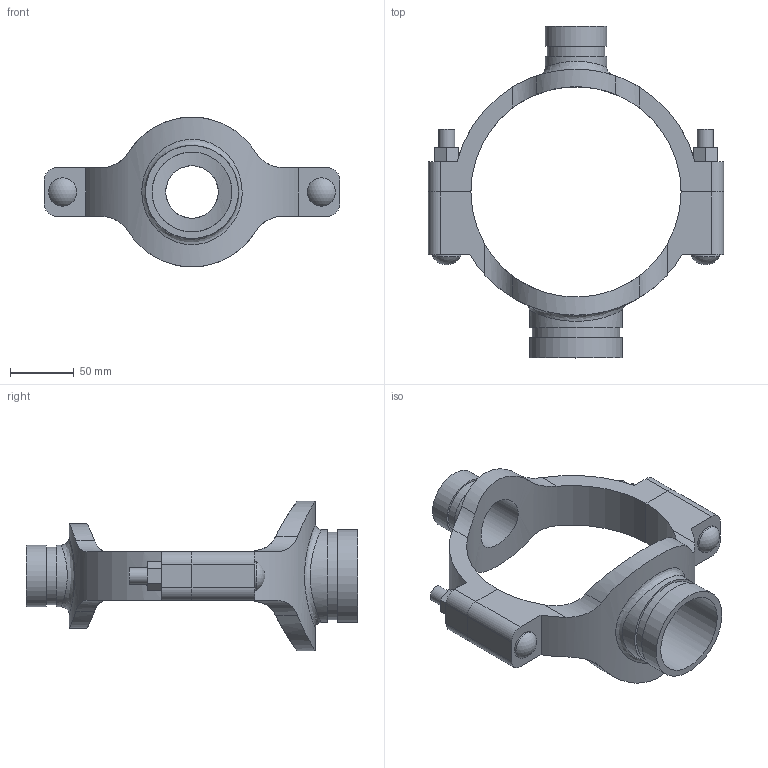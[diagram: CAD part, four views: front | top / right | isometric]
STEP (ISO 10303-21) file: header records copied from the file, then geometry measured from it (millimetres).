
FILE_DESCRIPTION(/* description */ ('VIC MECH-T BRANCH OUTLET CROSS STYLE 920N (GRVD)','CAx-IF Rec.Pracs.---Representation and Presentation of Product Manufacturing Information (PMI)---4.0---2014-10-13'),/* implementation_level */ '2;1');
FILE_NAME(/* name */ 'C:\Users\Vjadhav\AppData\Roaming\Autodesk\ApplicationPlugins\Back Up\Victaulic_IPS_Mechanical-Cross Outlet_Style 920N (OGS)\Victaulic_IPS_Mechanical-Cross Outlet_06.0 (165.1)x01.5x02.5 (150x40x65).stp',/* time_stamp */ '2020-08-06T19:45:10+05:00',/* author */ ('Vjadhav'),/* organization */ ('Victaulic'),/* preprocessor_version */ 'ST-DEVELOPER v17.2',/* originating_system */ 'Autodesk Inventor 2019',/* authorisation */ '');
FILE_SCHEMA (('AP242_MANAGED_MODEL_BASED_3D_ENGINEERING_MIM_LF { 1 0 10303 442 1 1 4 }'));
Length unit declared in the file: inch
Products named in the file (3): 920NG-06.0 (165.1)x01.5x02.5; 920NG-06.0 (165.1)x01.5x02.5_1; 920G-06.0 (165.1)x02.5
Assembly tree (2 placements, depth 2):
  920NG-06.0 (165.1)x01.5x02.5
    920NG-06.0 (165.1)x01.5x02.5_1
    920G-06.0 (165.1)x02.5
Bounding box: 231.9 x 260.6 x 117.6 mm (x, y, z)
Volume: 531677.6 mm3; surface area: 132681.2 mm2
Topology: 2 solids, 2 shells, 106 faces, 268 edges, 182 vertices
Faces by surface type: plane 54, cylinder 48, sphere 2, bspline 2
Full cylindrical faces by diameter (mm): 12.7 x4, 22.225 x2, 41.275 x1, 45.085 x1, 48.26 x2, 62.713 x1, 69.088 x1, 73.025 x2
Entity records: 4322 total; most frequent: CARTESIAN_POINT 1495, DIRECTION 542, ORIENTED_EDGE 536, EDGE_CURVE 268, AXIS2_PLACEMENT_3D 197, VERTEX_POINT 182, LINE 148, VECTOR 148
